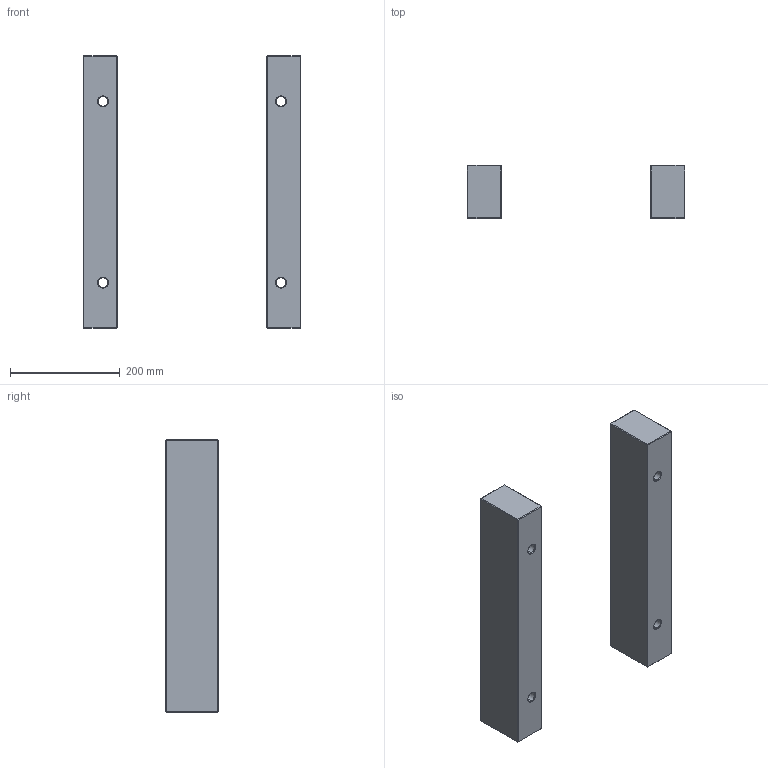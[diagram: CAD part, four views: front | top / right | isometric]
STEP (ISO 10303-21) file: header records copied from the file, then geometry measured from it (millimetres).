
FILE_DESCRIPTION (( 'STEP AP214' ), '1' );
FILE_NAME ('ESP-396X496x96.STEP', '2020-04-14T08:46:22', ( 'August' ), ( '' ), 'SwSTEP 2.0', 'SolidWorks 2018', '' );
FILE_SCHEMA (( 'AUTOMOTIVE_DESIGN' ));
Length unit declared in the file: millimetre
Products named in the file (1): ESP-396X496x96
Bounding box: 396 x 96 x 496 mm (x, y, z)
Volume: 5803828 mm3; surface area: 353633.5 mm2
Topology: 2 solids, 2 shells, 76 faces, 152 edges, 80 vertices
Faces by surface type: plane 52, cone 16, cylinder 8
Entity records: 1935 total; most frequent: DIRECTION 338, CARTESIAN_POINT 309, ORIENTED_EDGE 304, EDGE_CURVE 152, LINE 120, VECTOR 120, AXIS2_PLACEMENT_3D 109, EDGE_LOOP 84
